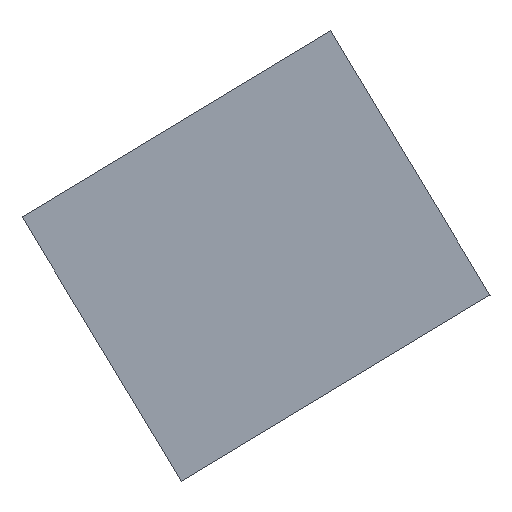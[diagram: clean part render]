
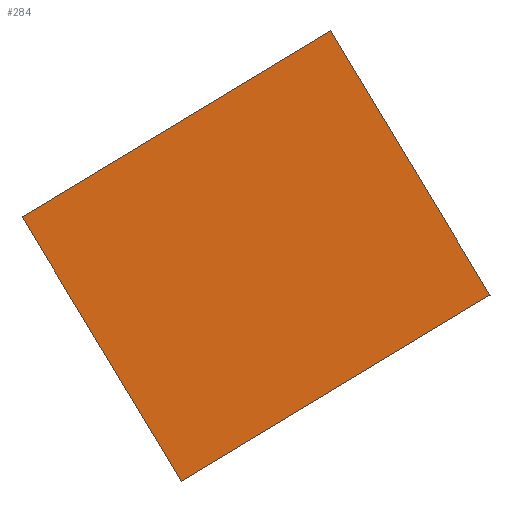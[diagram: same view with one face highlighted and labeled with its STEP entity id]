
A CAD part, left-side view. The second image highlights one B-rep face of the part: STEP entity #284.
In plain terms, the highlighted planar face has unit normal (-1, 0, 0).
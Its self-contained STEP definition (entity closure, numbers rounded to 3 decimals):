
#21 = EDGE_CURVE('',#22,#24,#26,.T.);
#22 = VERTEX_POINT('',#23);
#23 = CARTESIAN_POINT('',(-280.,-956.749,1887.088));
#24 = VERTEX_POINT('',#25);
#25 = CARTESIAN_POINT('',(-280.,-972.255,1861.407));
#26 = SURFACE_CURVE('',#27,(#31,#43),.PCURVE_S1.);
#27 = LINE('',#28,#29);
#28 = CARTESIAN_POINT('',(-280.,-956.749,1887.088));
#29 = VECTOR('',#30,1.);
#30 = DIRECTION('',(0.,-0.517,-0.856));
#31 = PCURVE('',#32,#37);
#32 = PLANE('',#33);
#33 = AXIS2_PLACEMENT_3D('',#34,#35,#36);
#34 = CARTESIAN_POINT('',(-280.,-956.749,1887.088));
#35 = DIRECTION('',(0.,-0.856,0.517));
#36 = DIRECTION('',(1.,0.,0.));
#37 = DEFINITIONAL_REPRESENTATION('',(#38),#42);
#38 = LINE('',#39,#40);
#39 = CARTESIAN_POINT('',(0.,0.));
#40 = VECTOR('',#41,1.);
#41 = DIRECTION('',(0.,-1.));
#42 = ( GEOMETRIC_REPRESENTATION_CONTEXT(2) 
PARAMETRIC_REPRESENTATION_CONTEXT() REPRESENTATION_CONTEXT('2D SPACE',''
  ) );
#43 = PCURVE('',#44,#49);
#44 = PLANE('',#45);
#45 = AXIS2_PLACEMENT_3D('',#46,#47,#48);
#46 = CARTESIAN_POINT('',(-280.,-986.711,1905.179));
#47 = DIRECTION('',(1.,0.,0.));
#48 = DIRECTION('',(0.,0.856,-0.517));
#49 = DEFINITIONAL_REPRESENTATION('',(#50),#54);
#50 = LINE('',#51,#52);
#51 = CARTESIAN_POINT('',(35.,0.));
#52 = VECTOR('',#53,1.);
#53 = DIRECTION('',(0.,-1.));
#54 = ( GEOMETRIC_REPRESENTATION_CONTEXT(2) 
PARAMETRIC_REPRESENTATION_CONTEXT() REPRESENTATION_CONTEXT('2D SPACE',''
  ) );
#72 = PLANE('',#73);
#73 = AXIS2_PLACEMENT_3D('',#74,#75,#76);
#74 = CARTESIAN_POINT('',(0.,-987.236,1870.452));
#75 = DIRECTION('',(-0.,-0.517,-0.856));
#76 = DIRECTION('',(0.,-0.856,0.517));
#126 = PLANE('',#127);
#127 = AXIS2_PLACEMENT_3D('',#128,#129,#130);
#128 = CARTESIAN_POINT('',(0.,-971.73,1896.134));
#129 = DIRECTION('',(-0.,-0.517,-0.856));
#130 = DIRECTION('',(0.,-0.856,0.517));
#181 = PLANE('',#182);
#182 = AXIS2_PLACEMENT_3D('',#183,#184,#185);
#183 = CARTESIAN_POINT('',(280.,-986.711,1905.179));
#184 = DIRECTION('',(0.,0.856,-0.517));
#185 = DIRECTION('',(-1.,0.,0.));
#219 = VERTEX_POINT('',#220);
#220 = CARTESIAN_POINT('',(-280.,-1002.217,1879.497)
  );
#241 = EDGE_CURVE('',#242,#219,#244,.T.);
#242 = VERTEX_POINT('',#243);
#243 = CARTESIAN_POINT('',(-280.,-986.711,1905.179));
#244 = SURFACE_CURVE('',#245,(#249,#256),.PCURVE_S1.);
#245 = LINE('',#246,#247);
#246 = CARTESIAN_POINT('',(-280.,-986.711,1905.179));
#247 = VECTOR('',#248,1.);
#248 = DIRECTION('',(0.,-0.517,-0.856));
#249 = PCURVE('',#181,#250);
#250 = DEFINITIONAL_REPRESENTATION('',(#251),#255);
#251 = LINE('',#252,#253);
#252 = CARTESIAN_POINT('',(560.,0.));
#253 = VECTOR('',#254,1.);
#254 = DIRECTION('',(-0.,-1.));
#255 = ( GEOMETRIC_REPRESENTATION_CONTEXT(2) 
PARAMETRIC_REPRESENTATION_CONTEXT() REPRESENTATION_CONTEXT('2D SPACE',''
  ) );
#256 = PCURVE('',#44,#257);
#257 = DEFINITIONAL_REPRESENTATION('',(#258),#262);
#258 = LINE('',#259,#260);
#259 = CARTESIAN_POINT('',(0.,0.));
#260 = VECTOR('',#261,1.);
#261 = DIRECTION('',(0.,-1.));
#262 = ( GEOMETRIC_REPRESENTATION_CONTEXT(2) 
PARAMETRIC_REPRESENTATION_CONTEXT() REPRESENTATION_CONTEXT('2D SPACE',''
  ) );
#284 = ADVANCED_FACE('',(#285),#44,.F.);
#285 = FACE_BOUND('',#286,.F.);
#286 = EDGE_LOOP('',(#287,#288,#309,#310));
#287 = ORIENTED_EDGE('',*,*,#241,.T.);
#288 = ORIENTED_EDGE('',*,*,#289,.T.);
#289 = EDGE_CURVE('',#219,#24,#290,.T.);
#290 = SURFACE_CURVE('',#291,(#295,#302),.PCURVE_S1.);
#291 = LINE('',#292,#293);
#292 = CARTESIAN_POINT('',(-280.,-1002.217,1879.497)
  );
#293 = VECTOR('',#294,1.);
#294 = DIRECTION('',(0.,0.856,-0.517));
#295 = PCURVE('',#44,#296);
#296 = DEFINITIONAL_REPRESENTATION('',(#297),#301);
#297 = LINE('',#298,#299);
#298 = CARTESIAN_POINT('',(0.,-30.));
#299 = VECTOR('',#300,1.);
#300 = DIRECTION('',(1.,0.));
#301 = ( GEOMETRIC_REPRESENTATION_CONTEXT(2) 
PARAMETRIC_REPRESENTATION_CONTEXT() REPRESENTATION_CONTEXT('2D SPACE',''
  ) );
#302 = PCURVE('',#72,#303);
#303 = DEFINITIONAL_REPRESENTATION('',(#304),#308);
#304 = LINE('',#305,#306);
#305 = CARTESIAN_POINT('',(17.5,280.));
#306 = VECTOR('',#307,1.);
#307 = DIRECTION('',(-1.,0.));
#308 = ( GEOMETRIC_REPRESENTATION_CONTEXT(2) 
PARAMETRIC_REPRESENTATION_CONTEXT() REPRESENTATION_CONTEXT('2D SPACE',''
  ) );
#309 = ORIENTED_EDGE('',*,*,#21,.F.);
#310 = ORIENTED_EDGE('',*,*,#311,.F.);
#311 = EDGE_CURVE('',#242,#22,#312,.T.);
#312 = SURFACE_CURVE('',#313,(#317,#324),.PCURVE_S1.);
#313 = LINE('',#314,#315);
#314 = CARTESIAN_POINT('',(-280.,-986.711,1905.179));
#315 = VECTOR('',#316,1.);
#316 = DIRECTION('',(0.,0.856,-0.517));
#317 = PCURVE('',#44,#318);
#318 = DEFINITIONAL_REPRESENTATION('',(#319),#323);
#319 = LINE('',#320,#321);
#320 = CARTESIAN_POINT('',(0.,0.));
#321 = VECTOR('',#322,1.);
#322 = DIRECTION('',(1.,0.));
#323 = ( GEOMETRIC_REPRESENTATION_CONTEXT(2) 
PARAMETRIC_REPRESENTATION_CONTEXT() REPRESENTATION_CONTEXT('2D SPACE',''
  ) );
#324 = PCURVE('',#126,#325);
#325 = DEFINITIONAL_REPRESENTATION('',(#326),#330);
#326 = LINE('',#327,#328);
#327 = CARTESIAN_POINT('',(17.5,280.));
#328 = VECTOR('',#329,1.);
#329 = DIRECTION('',(-1.,0.));
#330 = ( GEOMETRIC_REPRESENTATION_CONTEXT(2) 
PARAMETRIC_REPRESENTATION_CONTEXT() REPRESENTATION_CONTEXT('2D SPACE',''
  ) );
